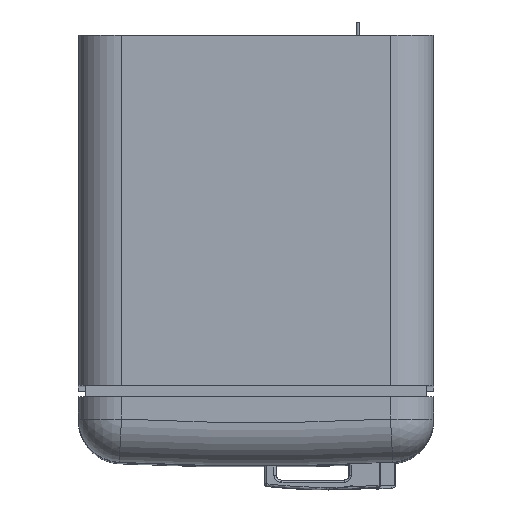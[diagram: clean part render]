
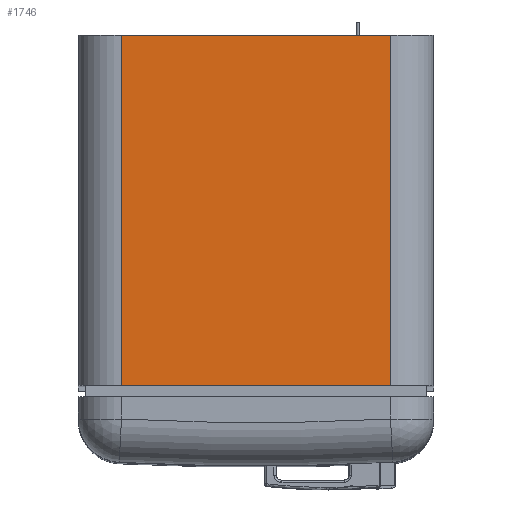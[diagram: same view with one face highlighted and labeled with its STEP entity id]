
A CAD part, top view. The second image highlights one B-rep face of the part: STEP entity #1746.
In plain terms, the highlighted planar face has unit normal (0, 0, 1).
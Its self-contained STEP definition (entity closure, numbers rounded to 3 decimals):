
#316=LINE('',#9682,#741);
#325=LINE('',#9710,#750);
#331=LINE('',#9732,#756);
#332=LINE('',#9733,#757);
#741=VECTOR('',#7478,1.);
#750=VECTOR('',#7497,1.);
#756=VECTOR('',#7517,1.);
#757=VECTOR('',#7518,1.);
#1242=PLANE('',#6426);
#1410=FACE_OUTER_BOUND('',#2528,.T.);
#1746=ADVANCED_FACE('',(#1410),#1242,.F.);
#2528=EDGE_LOOP('',(#3317,#3318,#3319,#3320));
#3317=ORIENTED_EDGE('',*,*,#5350,.F.);
#3318=ORIENTED_EDGE('',*,*,#5361,.T.);
#3319=ORIENTED_EDGE('',*,*,#5337,.T.);
#3320=ORIENTED_EDGE('',*,*,#5362,.T.);
#4710=VERTEX_POINT('',#9683);
#4711=VERTEX_POINT('',#9684);
#4723=VERTEX_POINT('',#9709);
#4724=VERTEX_POINT('',#9711);
#5337=EDGE_CURVE('',#4710,#4711,#316,.T.);
#5350=EDGE_CURVE('',#4723,#4724,#325,.T.);
#5361=EDGE_CURVE('',#4723,#4710,#331,.T.);
#5362=EDGE_CURVE('',#4711,#4724,#332,.T.);
#6426=AXIS2_PLACEMENT_3D('',#9734,#7519,#7520);
#7478=DIRECTION('',(1.,0.,0.));
#7497=DIRECTION('',(1.,0.,0.));
#7517=DIRECTION('',(0.,-1.,0.));
#7518=DIRECTION('',(0.,1.,0.));
#7519=DIRECTION('',(0.,0.,-1.));
#7520=DIRECTION('',(1.,0.,0.));
#9682=CARTESIAN_POINT('',(1.028,-119.814,1504.));
#9683=CARTESIAN_POINT('',(74.028,-119.814,1504.));
#9684=CARTESIAN_POINT('',(529.028,-119.814,1504.));
#9709=CARTESIAN_POINT('',(74.028,472.186,1504.));
#9710=CARTESIAN_POINT('',(1.028,472.186,1504.));
#9711=CARTESIAN_POINT('',(529.028,472.186,1504.));
#9732=CARTESIAN_POINT('',(74.028,-119.814,1504.));
#9733=CARTESIAN_POINT('',(529.028,-119.814,1504.));
#9734=CARTESIAN_POINT('',(1.028,-119.814,1504.));
